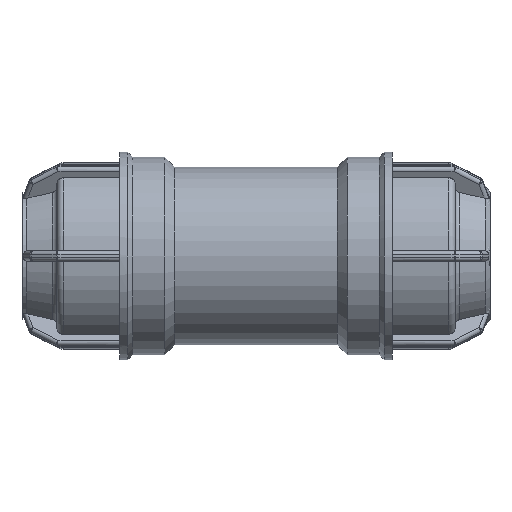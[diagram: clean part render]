
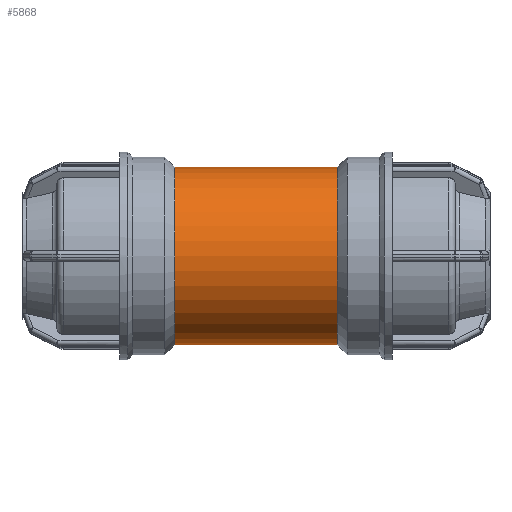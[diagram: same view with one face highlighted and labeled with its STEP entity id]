
A CAD part, front view. The second image highlights one B-rep face of the part: STEP entity #5868.
In plain terms, the highlighted cylindrical face has radius 45.36 mm (diameter 90.72 mm), a full revolution.
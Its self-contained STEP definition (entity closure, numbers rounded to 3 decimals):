
#1047=B_SPLINE_CURVE_WITH_KNOTS('',3,(#8914,#8915,#8916,#8917,#8918,#8919,
#8920,#8921,#8922,#8923,#8924,#8925,#8926,#8927,#8928,#8929,#8930,#8931,
#8932,#8933,#8934,#8935,#8936,#8937,#8938,#8939,#8940,#8941,#8942,#8943,
#8944,#8945,#8946,#8947,#8948,#8949,#8950,#8951,#8952,#8953,#8954,#8955,
#8956,#8957,#8958,#8959,#8960,#8961,#8962,#8963,#8964,#8965,#8966,#8967,
#8968,#8969,#8970,#8971,#8972,#8973,#8974,#8975,#8976,#8977,#8978,#8979),
 .UNSPECIFIED.,.T.,.F.,(4,2,2,2,2,2,2,2,2,2,2,2,2,2,2,2,2,2,2,2,2,2,2,2,
2,2,2,2,2,2,2,2,4),(0.,0.664,1.328,1.992,
2.656,3.307,3.959,4.611,5.263,
5.915,6.567,7.219,7.871,8.535,
9.198,9.862,10.526,11.19,11.854,
12.518,13.182,13.834,14.486,15.137,
15.789,16.441,17.093,17.745,18.397,
19.061,19.725,20.388,21.052),
 .UNSPECIFIED.);
#1229=FACE_BOUND('',#1680,.T.);
#1230=FACE_BOUND('',#1681,.T.);
#1269=FACE_OUTER_BOUND('',#1679,.T.);
#1679=EDGE_LOOP('',(#3924));
#1680=EDGE_LOOP('',(#3925));
#1681=EDGE_LOOP('',(#3926));
#2129=CIRCLE('',#6281,45.36);
#2130=CIRCLE('',#6282,45.36);
#2474=VERTEX_POINT('',#8909);
#2475=VERTEX_POINT('',#8911);
#2476=VERTEX_POINT('',#8913);
#3013=EDGE_CURVE('',#2474,#2474,#2129,.T.);
#3014=EDGE_CURVE('',#2475,#2475,#2130,.T.);
#3015=EDGE_CURVE('',#2476,#2476,#1047,.T.);
#3924=ORIENTED_EDGE('',*,*,#3013,.F.);
#3925=ORIENTED_EDGE('',*,*,#3014,.T.);
#3926=ORIENTED_EDGE('',*,*,#3015,.F.);
#5746=CYLINDRICAL_SURFACE('',#6280,45.36);
#5868=ADVANCED_FACE('',(#1269,#1229,#1230),#5746,.T.);
#6280=AXIS2_PLACEMENT_3D('',#8908,#7037,#7038);
#6281=AXIS2_PLACEMENT_3D('',#8910,#7039,#7040);
#6282=AXIS2_PLACEMENT_3D('',#8912,#7041,#7042);
#7037=DIRECTION('center_axis',(1.,0.,0.));
#7038=DIRECTION('ref_axis',(0.,1.,0.));
#7039=DIRECTION('center_axis',(1.,0.,0.));
#7040=DIRECTION('ref_axis',(0.,0.,-1.));
#7041=DIRECTION('center_axis',(1.,0.,0.));
#7042=DIRECTION('ref_axis',(0.,0.,-1.));
#8908=CARTESIAN_POINT('Origin',(20.8,0.,0.));
#8909=CARTESIAN_POINT('',(41.6,45.36,0.));
#8910=CARTESIAN_POINT('Origin',(41.6,0.,0.));
#8911=CARTESIAN_POINT('',(-41.6,45.36,0.));
#8912=CARTESIAN_POINT('Origin',(-41.6,0.,0.));
#8913=CARTESIAN_POINT('',(0.,30.968,33.144));
#8914=CARTESIAN_POINT('Ctrl Pts',(0.,30.968,33.144));
#8915=CARTESIAN_POINT('Ctrl Pts',(2.213,30.968,33.144));
#8916=CARTESIAN_POINT('Ctrl Pts',(4.442,31.213,32.92));
#8917=CARTESIAN_POINT('Ctrl Pts',(8.791,32.121,32.034));
#8918=CARTESIAN_POINT('Ctrl Pts',(10.912,32.782,31.372));
#8919=CARTESIAN_POINT('Ctrl Pts',(14.938,34.333,29.667));
#8920=CARTESIAN_POINT('Ctrl Pts',(16.848,35.222,28.622));
#8921=CARTESIAN_POINT('Ctrl Pts',(20.378,37.04,26.226));
#8922=CARTESIAN_POINT('Ctrl Pts',(21.997,37.968,24.875));
#8923=CARTESIAN_POINT('Ctrl Pts',(24.849,39.689,22.023));
#8924=CARTESIAN_POINT('Ctrl Pts',(26.195,40.551,20.418));
#8925=CARTESIAN_POINT('Ctrl Pts',(28.598,42.143,16.889));
#8926=CARTESIAN_POINT('Ctrl Pts',(29.655,42.873,14.964));
#8927=CARTESIAN_POINT('Ctrl Pts',(31.378,44.082,10.9));
#8928=CARTESIAN_POINT('Ctrl Pts',(32.043,44.561,8.757));
#8929=CARTESIAN_POINT('Ctrl Pts',(32.927,45.201,4.393));
#8930=CARTESIAN_POINT('Ctrl Pts',(33.144,45.36,2.173));
#8931=CARTESIAN_POINT('Ctrl Pts',(33.144,45.36,-2.173));
#8932=CARTESIAN_POINT('Ctrl Pts',(32.927,45.201,-4.393));
#8933=CARTESIAN_POINT('Ctrl Pts',(32.043,44.561,-8.757));
#8934=CARTESIAN_POINT('Ctrl Pts',(31.378,44.082,-10.9));
#8935=CARTESIAN_POINT('Ctrl Pts',(29.655,42.873,-14.964));
#8936=CARTESIAN_POINT('Ctrl Pts',(28.598,42.143,-16.889));
#8937=CARTESIAN_POINT('Ctrl Pts',(26.195,40.551,-20.418));
#8938=CARTESIAN_POINT('Ctrl Pts',(24.849,39.689,-22.023));
#8939=CARTESIAN_POINT('Ctrl Pts',(21.997,37.968,-24.875));
#8940=CARTESIAN_POINT('Ctrl Pts',(20.378,37.04,-26.226));
#8941=CARTESIAN_POINT('Ctrl Pts',(16.848,35.222,-28.622));
#8942=CARTESIAN_POINT('Ctrl Pts',(14.938,34.333,-29.667));
#8943=CARTESIAN_POINT('Ctrl Pts',(10.912,32.782,-31.372));
#8944=CARTESIAN_POINT('Ctrl Pts',(8.791,32.121,-32.034));
#8945=CARTESIAN_POINT('Ctrl Pts',(4.442,31.213,-32.92));
#8946=CARTESIAN_POINT('Ctrl Pts',(2.213,30.968,-33.144));
#8947=CARTESIAN_POINT('Ctrl Pts',(-2.213,30.968,-33.144));
#8948=CARTESIAN_POINT('Ctrl Pts',(-4.442,31.213,-32.92));
#8949=CARTESIAN_POINT('Ctrl Pts',(-8.791,32.121,-32.034));
#8950=CARTESIAN_POINT('Ctrl Pts',(-10.912,32.782,-31.372));
#8951=CARTESIAN_POINT('Ctrl Pts',(-14.938,34.333,-29.667));
#8952=CARTESIAN_POINT('Ctrl Pts',(-16.848,35.222,-28.622));
#8953=CARTESIAN_POINT('Ctrl Pts',(-20.378,37.04,-26.226));
#8954=CARTESIAN_POINT('Ctrl Pts',(-21.997,37.968,-24.875));
#8955=CARTESIAN_POINT('Ctrl Pts',(-24.849,39.689,-22.023));
#8956=CARTESIAN_POINT('Ctrl Pts',(-26.195,40.551,-20.418));
#8957=CARTESIAN_POINT('Ctrl Pts',(-28.598,42.143,-16.889));
#8958=CARTESIAN_POINT('Ctrl Pts',(-29.655,42.873,-14.964));
#8959=CARTESIAN_POINT('Ctrl Pts',(-31.378,44.082,-10.9));
#8960=CARTESIAN_POINT('Ctrl Pts',(-32.043,44.561,-8.757));
#8961=CARTESIAN_POINT('Ctrl Pts',(-32.927,45.201,-4.393));
#8962=CARTESIAN_POINT('Ctrl Pts',(-33.144,45.36,-2.173));
#8963=CARTESIAN_POINT('Ctrl Pts',(-33.144,45.36,2.173));
#8964=CARTESIAN_POINT('Ctrl Pts',(-32.927,45.201,4.393));
#8965=CARTESIAN_POINT('Ctrl Pts',(-32.043,44.561,8.757));
#8966=CARTESIAN_POINT('Ctrl Pts',(-31.378,44.082,10.9));
#8967=CARTESIAN_POINT('Ctrl Pts',(-29.655,42.873,14.964));
#8968=CARTESIAN_POINT('Ctrl Pts',(-28.598,42.143,16.889));
#8969=CARTESIAN_POINT('Ctrl Pts',(-26.195,40.551,20.418));
#8970=CARTESIAN_POINT('Ctrl Pts',(-24.849,39.689,22.023));
#8971=CARTESIAN_POINT('Ctrl Pts',(-21.997,37.968,24.875));
#8972=CARTESIAN_POINT('Ctrl Pts',(-20.378,37.04,26.226));
#8973=CARTESIAN_POINT('Ctrl Pts',(-16.848,35.222,28.622));
#8974=CARTESIAN_POINT('Ctrl Pts',(-14.938,34.333,29.667));
#8975=CARTESIAN_POINT('Ctrl Pts',(-10.912,32.782,31.372));
#8976=CARTESIAN_POINT('Ctrl Pts',(-8.791,32.121,32.034));
#8977=CARTESIAN_POINT('Ctrl Pts',(-4.442,31.213,32.92));
#8978=CARTESIAN_POINT('Ctrl Pts',(-2.213,30.968,33.144));
#8979=CARTESIAN_POINT('Ctrl Pts',(0.,30.968,33.144));
